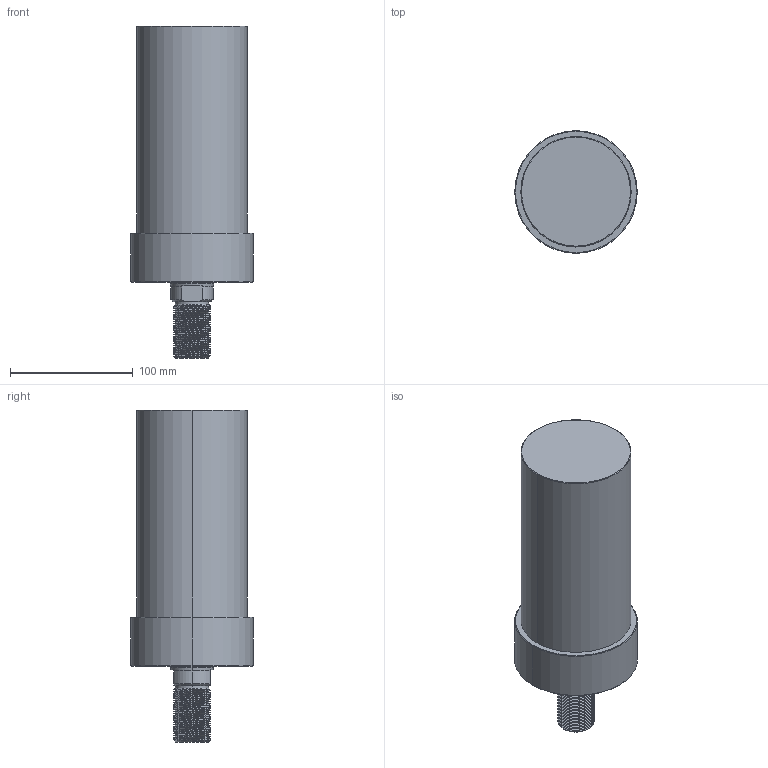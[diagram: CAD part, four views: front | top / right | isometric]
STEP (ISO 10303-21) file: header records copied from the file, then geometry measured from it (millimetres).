
FILE_DESCRIPTION (( 'STEP AP203' ), '1' );
FILE_NAME ('CLLU-090GT-125.STEP', '2020-01-15T01:33:01', ( '' ), ( '' ), 'SwSTEP 2.0', 'SolidWorks 2015', '' );
FILE_SCHEMA (( 'CONFIG_CONTROL_DESIGN' ));
Length unit declared in the file: millimetre
Products named in the file (1): CLLU-090GT-125
Bounding box: 100 x 100 x 271 mm (x, y, z)
Volume: 1427082.5 mm3; surface area: 88038.1 mm2
Topology: 1 solids, 1 shells, 125 faces, 326 edges, 204 vertices
Faces by surface type: cylinder 79, cone 26, plane 12, torus 6, bspline 2
Entity records: 7191 total; most frequent: CARTESIAN_POINT 4402, ORIENTED_EDGE 636, DIRECTION 515, EDGE_CURVE 318, VERTEX_POINT 204, AXIS2_PLACEMENT_3D 202, EDGE_LOOP 134, ADVANCED_FACE 125
